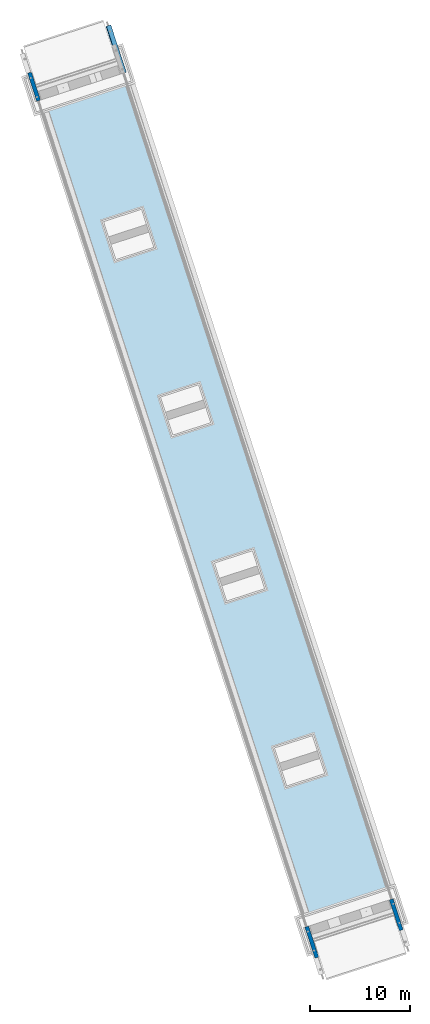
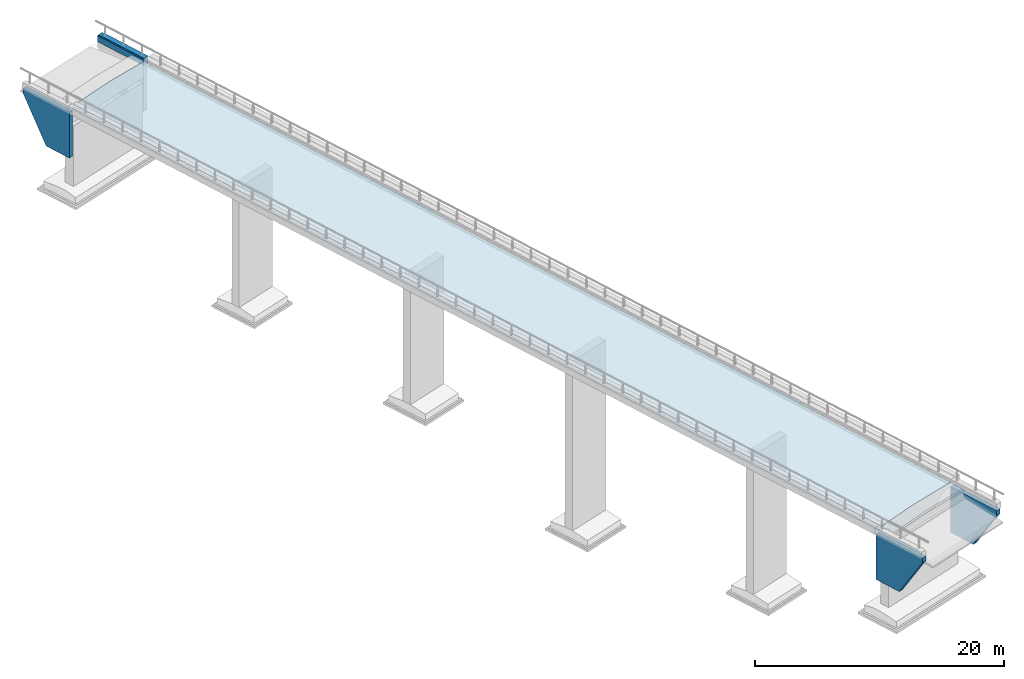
# Not in any storey, part 8 of 10: 3 walls, 1 beam, 1 slab.
"""IFC4X3_ADD2 model written with IfcOpenShell, lengths in metres."""

from ifc_helpers import new_model, entity, si_unit, converted_unit, derived_unit, direction, frame, origin, origin_2d, place, context, subcontext, project, library, spatial, polygons, element, save


model = new_model("IFC4X3_ADD2")

# Units and contexts
model_context = context("Model", 3, precision=1e-05, world=origin(), true_north=direction((-0.011993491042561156, 0.9999280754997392)))
plan_context = context("Plan", 2, precision=1e-05, world=origin_2d())
body_context = subcontext(model_context, "Body", "Model", "MODEL_VIEW")
ifc_project = project(units=[si_unit("LENGTHUNIT", "METRE"), si_unit("AREAUNIT", "SQUARE_METRE"), si_unit("VOLUMEUNIT", "CUBIC_METRE"), si_unit("MASSUNIT", "GRAM", prefix="KILO"), converted_unit("TIMEUNIT", "year", entity("IfcTimeMeasure", 31557600.0), si_unit("TIMEUNIT", "SECOND"), dimensions=[0, 0, 1, 0, 0, 0, 0]), si_unit("PLANEANGLEUNIT", "RADIAN"), si_unit("THERMODYNAMICTEMPERATUREUNIT", "DEGREE_CELSIUS"), si_unit("FORCEUNIT", "NEWTON", prefix="KILO"), si_unit("PRESSUREUNIT", "PASCAL", prefix="MEGA"), si_unit("SOLIDANGLEUNIT", "STERADIAN"), derived_unit("MASSDENSITYUNIT", [(si_unit("MASSUNIT", "GRAM", prefix="KILO"), 1), (si_unit("VOLUMEUNIT", "CUBIC_METRE"), -1)]), derived_unit("MODULUSOFELASTICITYUNIT", [(si_unit("PRESSUREUNIT", "PASCAL", prefix="MEGA"), 1)]), derived_unit("THERMALEXPANSIONCOEFFICIENTUNIT", [(si_unit("THERMODYNAMICTEMPERATUREUNIT", "DEGREE_CELSIUS"), -1)])], contexts=[model_context, plan_context])
project_library = library(declared=ifc_project)

# Site, bridge, bridge parts
site_placement = place(None, origin())
site = spatial("IfcSite", under=ifc_project, at=site_placement, Name="Site BR-01", CompositionType="ELEMENT")
bridge_placement = place(site_placement, origin())
bridge = spatial("IfcBridge", under=site, at=bridge_placement, Name="BR-01", CompositionType="ELEMENT", PredefinedType="USERDEFINED")
bridge_part_1_placement = place(bridge_placement, origin())
bridge_part_1 = spatial("IfcBridgePart", under=bridge, at=bridge_part_1_placement, Name="Substructure", CompositionType="ELEMENT", PredefinedType="SUBSTRUCTURE", UsageType="VERTICAL")
bridge_part_2_placement = place(bridge_part_1_placement, frame((0.0, 0.0, 55.75)))
bridge_part_2 = spatial("IfcBridgePart", under=bridge_part_1, at=bridge_part_2_placement, Name="A1", CompositionType="ELEMENT", PredefinedType="ABUTMENT", UsageType="VERTICAL")

# Beam
beam_placement = place(bridge_part_2_placement, frame((18.344428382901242, 116.89430918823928, 8.487236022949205), z_axis=(0.0, 0.0, 1.0), x_axis=(0.3088039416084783, -0.951125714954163, 0.0)))
element("IfcBeam", 1, at=beam_placement, inside=bridge_part_2, Name="Wing wall edge beam A1 left", PredefinedType="EDGEBEAM", context=body_context, shape_type="Tessellation", body=[
    polygons([(-2.49998, 0.13001, 0.03075), (-2.49997, 0.27001, 0.02218), (-2.19998, 0.27001, 0.02085), (-2.19998, 0.13001, 0.02943), (-2.49997, 0.27001, 0.64218), (-2.19998, 0.27001, 0.72085), (-2.49998, -0.19999, 0.62218), (-2.19998, -0.2, 0.70085), (-2.49998, -0.26999, 0.55219), (-2.19998, -0.26999, 0.63085), (-2.34998, -0.26999, 0.47457), (-2.49998, -0.26999, 0.45218), (-2.42498, -0.26999, 0.33114), (-2.42498, -0.26999, 0.47161), (-2.42498, -0.26999, 0.18078), (-2.49998, -0.26999, 0.03075), (-2.27498, -0.26999, 0.47753), (-2.27498, -0.26999, 0.33047), (-2.19998, -0.26999, 0.45085), (-2.27498, -0.26999, 0.18011), (-2.19998, -0.26999, 0.02943), (-2.34998, -0.26999, 0.18044), (-2.34998, -0.26999, 0.3308), (0.1725, 0.165, 0.01675), (2.49997, 0.12999, 0.00858), (-1.01499, 0.165, 0.02203), (-1.01499, 0.2, 0.01988), (-1.01499, 0.235, 0.01774), (1.32499, 0.165, 0.01164), (1.32499, 0.2, 0.0095), (2.49998, 0.26999, 0.0), (1.32499, 0.235, 0.00735), (0.1725, 0.235, 0.01247), (0.1725, 0.2, 0.01461), (0.1725, 0.27, 0.18533), (-1.01499, 0.27, 0.1906), (-1.01499, 0.27, 0.36559), (-1.01499, 0.27, 0.5406), (1.32499, 0.27, 0.18021), (1.32499, 0.27, 0.35522), (2.49998, 0.26999, 0.7), (1.32499, 0.27, 0.53021), (0.1725, 0.27, 0.53532), (0.1725, 0.27, 0.36033), (0.1725, 0.1525, 0.70533), (-1.01499, 0.1525, 0.71059), (-1.01499, 0.035, 0.7056), (-1.01499, -0.0825, 0.70059), (1.32499, 0.1525, 0.70022), (1.32498, 0.035, 0.69521), (2.49997, -0.20001, 0.68), (1.32499, -0.0825, 0.69022), (0.1725, -0.0825, 0.69533), (0.1725, 0.035, 0.70033), (0.1725, -0.2175, 0.67283), (-1.01499, -0.2175, 0.67809), (-1.01499, -0.235, 0.6606), (-1.01499, -0.2525, 0.6431), (1.32498, -0.2175, 0.66772), (1.32499, -0.235, 0.65022), (2.49998, -0.27001, 0.61), (1.32499, -0.2525, 0.63271), (0.1725, -0.2525, 0.63783), (0.17249, -0.235, 0.65533), (0.1725, -0.27, 0.46997), (-1.01499, -0.27, 0.32488), (-1.01499, -0.27, 0.47523), (-1.01499, -0.27, 0.17452), (1.32498, -0.27, 0.46486), (1.32498, -0.27, 0.3145), (2.49998, -0.27001, 0.43), (1.32498, -0.27, 0.16415), (2.49998, -0.27001, 0.00858), (0.1725, -0.27, 0.16926), (0.1725, -0.27, 0.31961), (0.1725, -0.17, 0.0189), (-1.01499, -0.17, 0.02417), (-1.01499, -0.07, 0.02417), (-1.01499, 0.03, 0.02417), (1.32499, -0.17, 0.01379), (1.32498, -0.07, 0.01379), (1.32499, 0.03, 0.01379), (0.1725, 0.03, 0.0189), (0.1725, -0.07, 0.0189)], [[[1, 2, 3, 4]], [[2, 5, 6, 3]], [[5, 7, 8, 6]], [[7, 9, 10, 8]], [[9, 11, 10]], [[12, 13, 14]], [[9, 12, 14]], [[14, 11, 9]], [[15, 12, 16]], [[15, 13, 12]], [[10, 11, 17]], [[17, 18, 19]], [[19, 10, 17]], [[18, 20, 21, 19]], [[22, 15, 16, 21]], [[22, 21, 20]], [[13, 23, 11, 14]], [[15, 22, 23, 13]], [[23, 18, 17, 11]], [[22, 20, 18, 23]], [[4, 24, 25]], [[26, 4, 27]], [[26, 24, 4]], [[3, 27, 4]], [[3, 28, 27]], [[29, 25, 24]], [[25, 30, 31]], [[30, 25, 29]], [[32, 31, 30]], [[33, 28, 3, 31]], [[33, 31, 32]], [[27, 34, 24, 26]], [[28, 33, 34, 27]], [[34, 30, 29, 24]], [[33, 32, 30, 34]], [[3, 35, 31]], [[36, 3, 37]], [[36, 35, 3]], [[6, 37, 3]], [[6, 38, 37]], [[39, 31, 35]], [[31, 40, 41]], [[40, 31, 39]], [[42, 41, 40]], [[43, 38, 6, 41]], [[43, 41, 42]], [[37, 44, 35, 36]], [[38, 43, 44, 37]], [[44, 40, 39, 35]], [[43, 42, 40, 44]], [[6, 45, 41]], [[46, 6, 47]], [[46, 45, 6]], [[8, 47, 6]], [[8, 48, 47]], [[49, 41, 45]], [[41, 50, 51]], [[50, 41, 49]], [[52, 51, 50]], [[53, 48, 8, 51]], [[53, 51, 52]], [[47, 54, 45, 46]], [[48, 53, 54, 47]], [[54, 50, 49, 45]], [[53, 52, 50, 54]], [[8, 55, 51]], [[56, 8, 57]], [[56, 55, 8]], [[10, 57, 8]], [[10, 58, 57]], [[59, 51, 55]], [[51, 60, 61]], [[60, 51, 59]], [[62, 61, 60]], [[63, 58, 10, 61]], [[63, 61, 62]], [[57, 64, 55, 56]], [[58, 63, 64, 57]], [[64, 60, 59, 55]], [[63, 62, 60, 64]], [[10, 65, 61]], [[19, 66, 67]], [[10, 19, 67]], [[67, 65, 10]], [[68, 19, 21]], [[68, 66, 19]], [[61, 65, 69]], [[69, 70, 71]], [[71, 61, 69]], [[70, 72, 73, 71]], [[74, 68, 21, 73]], [[74, 73, 72]], [[66, 75, 65, 67]], [[68, 74, 75, 66]], [[75, 70, 69, 65]], [[74, 72, 70, 75]], [[16, 1, 4, 21]], [[41, 71, 25]], [[51, 71, 41]], [[25, 31, 41]], [[61, 71, 51]], [[71, 73, 25]], [[7, 1, 12]], [[2, 1, 5]], [[7, 5, 1]], [[16, 12, 1]], [[12, 9, 7]], [[21, 76, 73]], [[77, 21, 78]], [[77, 76, 21]], [[4, 78, 21]], [[4, 79, 78]], [[80, 73, 76]], [[73, 81, 25]], [[81, 73, 80]], [[82, 25, 81]], [[83, 79, 4, 25]], [[83, 25, 82]], [[78, 84, 76, 77]], [[79, 83, 84, 78]], [[84, 81, 80, 76]], [[83, 82, 81, 84]]], closed=True),
])

# Bridge parts
bridge_part_3_placement = place(bridge_placement, origin())
bridge_part_3 = spatial("IfcBridgePart", under=bridge, at=bridge_part_3_placement, Name="Superstructure", CompositionType="ELEMENT", PredefinedType="SUPERSTRUCTURE", UsageType="LONGITUDINAL")
bridge_part_4_placement = place(bridge_part_3_placement, frame((0.0, 0.0, 62.729)))
bridge_part_4 = spatial("IfcBridgePart", under=bridge_part_3, at=bridge_part_4_placement, Name="Deck", CompositionType="ELEMENT", PredefinedType="DECK", UsageType="LONGITUDINAL")

# Slab
slab_placement = place(bridge_part_4_placement, frame((28.26563398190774, 71.69917425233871, 2.6794433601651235e-05), z_axis=(0.0, 0.0, 1.0), x_axis=(0.3088039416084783, -0.951125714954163, 0.0)))
element("IfcSlab", 2, at=slab_placement, inside=bridge_part_4, Name="Bridge deck slab", ObjectType="BRIDGEDECK", PredefinedType="USERDEFINED", context=body_context, shape_type="Tessellation", body=[
    polygons([(-21.44402, -1.14994, 0.32179), (0.0, -1.14999, 0.21595), (-43.55, -2.29987, 0.44575), (0.0, 0.0, 0.20835), (-21.44402, 6e-05, 0.31063), (-21.44402, 1.15006, 0.29947), (22.10598, -5e-05, 0.10293), (1e-05, 1.15, 0.20077), (22.10598, -1.15005, 0.10683), (-21.44401, 3.22505, 1.88158), (1e-05, 3.22499, 1.78302), (-43.54999, 4.30012, 1.93636), (1e-05, 2.14999, 1.82285), (-21.44401, 2.15005, 1.92504), (1e-05, 1.075, 1.86269), (22.10599, 2.14994, 1.71751), (22.10598, 1.07494, 1.75362), (22.10599, 3.22493, 1.6814), (-43.54999, 2.30012, 0.38636), (43.55001, 2.29989, 0.0), (22.10598, 1.14995, 0.09903), (43.55, -2.30012, 0.00132), (-1e-05, -2.54999, 0.47353), (-21.44403, -2.54993, 0.58295), (-21.44402, -2.79993, 0.83295), (-43.55001, -3.29987, 1.44575), (-21.44402, -3.04993, 1.08295), (22.10597, -2.55005, 0.36074), (22.10598, -2.80006, 0.61074), (43.54999, -3.30012, 1.00132), (22.10597, -3.05006, 0.86074), (-1e-05, -3.04999, 0.97353), (0.0, -2.79999, 0.72353), (-1e-05, -3.54999, 1.27354), (-21.44403, -3.54993, 1.38295), (-21.44403, -3.79993, 1.43295), (-43.55001, -4.29987, 1.64574), (-21.44403, -4.04993, 1.48295), (22.10597, -3.55006, 1.16074), (22.10597, -3.80006, 1.21074), (43.54999, -4.30012, 1.20132), (22.10597, -4.05006, 1.26074), (-1e-05, -4.04999, 1.37354), (-1e-05, -3.79999, 1.32353), (-1e-05, -4.29999, 1.51103), (-21.44403, -4.29993, 1.62045), (-21.44403, -4.29993, 1.70795), (-43.55001, -4.29987, 1.99574), (-21.44403, -4.29993, 1.79545), (22.10597, -4.30006, 1.39824), (22.10597, -4.30006, 1.48574), (43.54999, -4.30012, 1.55132), (22.10597, -4.30006, 1.57323), (-1e-05, -4.29999, 1.68604), (-1e-05, -4.29999, 1.59853), (-1e-05, -3.22499, 1.80579), (-21.44403, -3.22494, 1.9152), (-21.44403, -2.14994, 1.94745), (-43.55001, -4.24987, 1.99725), (-43.55, 0.00011, 2.12475), (-21.44402, -1.07494, 1.9797), (22.10597, -3.22506, 1.69299), (43.54999, -4.25012, 1.55282), (43.55, -0.00011, 1.68032), (22.10598, -2.15006, 1.72523), (22.10598, -1.07506, 1.75748), (0.0, -1.075, 1.87029), (0.0, -2.15, 1.83804), (-43.54998, 4.25012, 1.93821), (-21.44401, 1.07505, 1.9685), (43.55001, 4.29989, 1.55), (43.55001, 4.24989, 1.55185), (1e-05, 4.3, 1.65568), (-21.44401, 4.30006, 1.7508), (-21.44401, 4.30006, 1.6633), (-43.54999, 4.30012, 1.58636), (-21.44401, 4.30006, 1.5758), (22.10599, 4.29995, 1.55762), (22.10599, 4.29995, 1.47012), (43.55001, 4.29989, 1.2), (22.10599, 4.29995, 1.38262), (1e-05, 4.3, 1.48068), (1e-05, 4.3, 1.56818), (1e-05, 4.05, 1.34318), (-21.44401, 4.05006, 1.4383), (-21.44401, 3.80006, 1.3883), (-43.54999, 3.30012, 1.38636), (-21.44401, 3.55006, 1.3383), (22.10599, 4.04995, 1.24512), (22.10599, 3.79995, 1.19512), (43.55001, 3.29989, 1.0), (22.10599, 3.54995, 1.14512), (1e-05, 3.55, 1.24318), (1e-05, 3.8, 1.29318), (1e-05, 3.175, 1.06818), (-21.44401, 3.17506, 1.1633), (-21.44401, 3.05006, 1.0383), (-43.54999, 2.80012, 0.88636), (-21.44401, 2.92506, 0.9133), (22.10599, 3.17495, 0.97012), (22.10599, 3.04995, 0.84512), (43.55001, 2.79989, 0.5), (22.10599, 2.92495, 0.72012), (1e-05, 2.925, 0.81818), (1e-05, 3.05, 0.94318), (1e-05, 2.675, 0.56818), (-21.44401, 2.67506, 0.6633), (-21.44401, 2.55006, 0.5383), (-21.44401, 2.42506, 0.4133), (22.10599, 2.67495, 0.47012), (22.10599, 2.54995, 0.34512), (22.10599, 2.42495, 0.22012), (1e-05, 2.425, 0.31818), (1e-05, 2.55, 0.44318)], [[[1, 2, 3]], [[4, 5, 6]], [[2, 1, 5]], [[7, 4, 8]], [[9, 2, 4]], [[10, 11, 12]], [[13, 14, 15]], [[11, 10, 13]], [[16, 13, 17]], [[18, 11, 16]], [[8, 19, 20]], [[19, 6, 5]], [[8, 6, 19]], [[5, 3, 19]], [[1, 3, 5]], [[20, 21, 8]], [[7, 20, 22]], [[20, 7, 21]], [[22, 9, 7]], [[3, 2, 22]], [[22, 2, 9]], [[8, 4, 6]], [[4, 2, 5]], [[21, 7, 8]], [[7, 9, 4]], [[23, 3, 22]], [[3, 24, 25]], [[23, 24, 3]], [[25, 26, 3]], [[27, 26, 25]], [[22, 28, 23]], [[29, 22, 30]], [[22, 29, 28]], [[30, 31, 29]], [[26, 27, 32, 30]], [[30, 32, 31]], [[23, 33, 25, 24]], [[33, 32, 27, 25]], [[28, 29, 33, 23]], [[29, 31, 32, 33]], [[34, 26, 30]], [[26, 35, 36]], [[34, 35, 26]], [[36, 37, 26]], [[38, 37, 36]], [[30, 39, 34]], [[40, 30, 41]], [[30, 40, 39]], [[41, 42, 40]], [[37, 38, 43, 41]], [[41, 43, 42]], [[34, 44, 36, 35]], [[44, 43, 38, 36]], [[39, 40, 44, 34]], [[40, 42, 43, 44]], [[45, 37, 41]], [[37, 46, 47]], [[45, 46, 37]], [[47, 48, 37]], [[49, 48, 47]], [[41, 50, 45]], [[51, 41, 52]], [[41, 51, 50]], [[52, 53, 51]], [[48, 49, 54, 52]], [[52, 54, 53]], [[45, 55, 47, 46]], [[55, 54, 49, 47]], [[50, 51, 55, 45]], [[51, 53, 54, 55]], [[56, 48, 52]], [[57, 58, 59]], [[59, 48, 57]], [[56, 57, 48]], [[58, 60, 59]], [[61, 60, 58]], [[52, 62, 56]], [[63, 64, 65]], [[65, 62, 63]], [[52, 63, 62]], [[64, 66, 65]], [[60, 61, 67, 64]], [[64, 67, 66]], [[56, 68, 58, 57]], [[68, 67, 61, 58]], [[62, 65, 68, 56]], [[65, 66, 67, 68]], [[15, 60, 64]], [[14, 69, 60]], [[60, 70, 14]], [[70, 60, 15]], [[10, 69, 14]], [[10, 12, 69]], [[12, 11, 71]], [[64, 17, 15]], [[16, 64, 72]], [[64, 16, 17]], [[72, 18, 16]], [[18, 71, 11]], [[71, 18, 72]], [[15, 14, 70]], [[13, 10, 14]], [[17, 13, 15]], [[16, 11, 13]], [[73, 12, 71]], [[12, 74, 75]], [[73, 74, 12]], [[75, 76, 12]], [[77, 76, 75]], [[71, 78, 73]], [[79, 71, 80]], [[71, 79, 78]], [[80, 81, 79]], [[76, 77, 82, 80]], [[80, 82, 81]], [[73, 83, 75, 74]], [[83, 82, 77, 75]], [[78, 79, 83, 73]], [[79, 81, 82, 83]], [[84, 76, 80]], [[76, 85, 86]], [[84, 85, 76]], [[86, 87, 76]], [[88, 87, 86]], [[80, 89, 84]], [[90, 80, 91]], [[80, 90, 89]], [[91, 92, 90]], [[87, 88, 93, 91]], [[91, 93, 92]], [[84, 94, 86, 85]], [[94, 93, 88, 86]], [[89, 90, 94, 84]], [[90, 92, 93, 94]], [[95, 87, 91]], [[87, 96, 97]], [[95, 96, 87]], [[97, 98, 87]], [[99, 98, 97]], [[91, 100, 95]], [[101, 91, 102]], [[91, 101, 100]], [[102, 103, 101]], [[98, 99, 104, 102]], [[102, 104, 103]], [[95, 105, 97, 96]], [[105, 104, 99, 97]], [[100, 101, 105, 95]], [[101, 103, 104, 105]], [[91, 72, 64]], [[30, 102, 91]], [[102, 22, 20]], [[80, 72, 91]], [[71, 72, 80]], [[64, 30, 91]], [[22, 102, 30]], [[41, 30, 63]], [[63, 30, 64]], [[52, 41, 63]], [[69, 87, 60]], [[69, 76, 87]], [[76, 69, 12]], [[98, 19, 3]], [[87, 98, 26]], [[3, 26, 98]], [[59, 60, 26]], [[48, 59, 37]], [[26, 37, 59]], [[26, 60, 87]], [[106, 98, 102]], [[98, 107, 108]], [[106, 107, 98]], [[108, 19, 98]], [[109, 19, 108]], [[102, 110, 106]], [[111, 102, 20]], [[102, 111, 110]], [[20, 112, 111]], [[19, 109, 113, 20]], [[20, 113, 112]], [[106, 114, 108, 107]], [[114, 113, 109, 108]], [[110, 111, 114, 106]], [[111, 112, 113, 114]]], closed=True),
])

# Wall
wall_1_placement = place(bridge_part_2_placement, frame((9.812837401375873, 114.12435592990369, 4.0762748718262), z_axis=(0.0, 0.0, 1.0), x_axis=(0.3088039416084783, -0.951125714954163, 0.0)))
element("IfcWall", 3, at=wall_1_placement, inside=bridge_part_2, Name="Wing wall A1 right", ObjectType="WINGWALL", PredefinedType="USERDEFINED", context=body_context, shape_type="Tessellation", body=[
    polygons([(-1.24998, 0.2, 3.87806), (-2.49997, 0.20001, 4.50409), (0.0, 0.2, 4.49133), (-1.87497, 0.2, 4.13125), (-1.87497, 0.2, 3.76161), (-2.49997, 0.20001, 4.02551), (-1.87497, 0.2, 3.39196), (-1.24998, 0.2, 2.63877), (-0.62499, 0.2, 3.62487), (-0.62499, 0.2, 2.75523), (0.0, 0.2, 0.01276), (-0.62499, 0.2, 1.88559), (-1.24998, 0.2, 3.25842), (-1.24999, 0.1, 2.01913), (-1.87498, 0.10001, 3.02232), (-1.87497, 0.0, 3.02232), (-2.49997, -0.19999, 4.02551), (-1.87498, -0.09999, 3.02232), (-1.24999, -0.1, 2.01913), (-0.62499, 0.1, 1.01595), (-0.62499, 0.0, 1.01595), (0.0, -0.2, 0.01276), (-0.62499, -0.1, 1.01595), (-1.24998, 0.0, 2.01913), (-1.24998, -0.2, 2.63877), (-1.87497, -0.2, 3.39196), (-1.87497, -0.2, 3.76161), (-2.49997, -0.19999, 4.50409), (-1.87497, -0.2, 4.13125), (-1.24998, -0.2, 3.87806), (-0.62499, -0.2, 1.88559), (-0.62499, -0.2, 2.75523), (0.0, -0.2, 4.49133), (-0.62499, -0.2, 3.62487), (-1.24998, -0.2, 3.25842), (1.24998, 0.2, 3.36531), (2.49996, 0.2, 4.47857), (0.625, 0.2, 3.3685), (0.625, 0.2, 2.24885), (0.625, 0.2, 1.12921), (1.24998, 0.2, 1.12602), (1.87497, 0.2, 3.36212), (1.87497, 0.2, 2.24247), (2.49996, 0.2, 0.0), (1.87497, 0.2, 1.12283), (1.24998, 0.2, 2.24566), (1.24998, 0.1, 0.00638), (0.62499, 0.1, 0.00957), (0.62499, 0.0, 0.00957), (0.62499, -0.1, 0.00957), (1.24998, -0.1, 0.00638), (1.87498, 0.1, 0.00319), (1.87497, 0.0, 0.00319), (2.49997, -0.20001, 0.0), (1.87498, -0.1, 0.00319), (1.24998, 0.0, 0.00638), (1.24998, -0.2, 1.12602), (0.62499, -0.2, 1.12921), (0.62499, -0.2, 2.24885), (0.62499, -0.2, 3.3685), (1.24998, -0.2, 3.36531), (1.87497, -0.2, 1.12283), (1.87497, -0.2, 2.24247), (2.49997, -0.20001, 4.47857), (1.87497, -0.2, 3.36212), (1.24998, -0.2, 2.24566), (-1.24999, -0.1, 4.49771), (-1.87498, -0.09999, 4.5009), (-1.87497, 0.0, 4.5009), (-1.87498, 0.10001, 4.5009), (-1.24999, 0.1, 4.49771), (-0.62499, -0.1, 4.49452), (-0.62499, 0.0, 4.49452), (-0.62499, 0.1, 4.49452), (-1.24998, 0.0, 4.49771), (1.24998, -0.1, 4.48495), (0.62499, -0.1, 4.48814), (0.62499, 0.0, 4.48814), (0.62499, 0.1, 4.48814), (1.24998, 0.1, 4.48495), (1.87498, -0.1, 4.48176), (1.87497, 0.0, 4.48176), (1.87498, 0.1, 4.48176), (1.24998, 0.0, 4.48495)], [[[1, 2, 3]], [[1, 4, 2]], [[2, 4, 5, 6]], [[6, 7, 8]], [[7, 6, 5]], [[3, 9, 1]], [[10, 3, 11]], [[3, 10, 9]], [[11, 12, 10]], [[8, 11, 6]], [[11, 8, 12]], [[1, 13, 5, 4]], [[13, 8, 7, 5]], [[9, 10, 13, 1]], [[10, 12, 8, 13]], [[14, 6, 11]], [[6, 15, 16]], [[14, 15, 6]], [[16, 17, 6]], [[17, 18, 19]], [[18, 17, 16]], [[11, 20, 14]], [[21, 11, 22]], [[11, 21, 20]], [[22, 23, 21]], [[19, 22, 17]], [[22, 19, 23]], [[14, 24, 16, 15]], [[24, 19, 18, 16]], [[20, 21, 24, 14]], [[21, 23, 19, 24]], [[25, 17, 22]], [[17, 26, 27]], [[25, 26, 17]], [[27, 28, 17]], [[28, 29, 30]], [[29, 28, 27]], [[22, 31, 25]], [[32, 22, 33]], [[22, 32, 31]], [[33, 34, 32]], [[30, 33, 28]], [[33, 30, 34]], [[25, 35, 27, 26]], [[35, 30, 29, 27]], [[31, 32, 35, 25]], [[32, 34, 30, 35]], [[36, 3, 37]], [[3, 38, 39]], [[36, 38, 3]], [[39, 11, 3]], [[11, 40, 41]], [[40, 11, 39]], [[37, 42, 36]], [[43, 37, 44]], [[37, 43, 42]], [[44, 45, 43]], [[41, 44, 11]], [[44, 41, 45]], [[36, 46, 39, 38]], [[46, 41, 40, 39]], [[42, 43, 46, 36]], [[43, 45, 41, 46]], [[47, 11, 44]], [[11, 48, 49]], [[47, 48, 11]], [[49, 22, 11]], [[22, 50, 51]], [[50, 22, 49]], [[44, 52, 47]], [[53, 44, 54]], [[44, 53, 52]], [[54, 55, 53]], [[51, 54, 22]], [[54, 51, 55]], [[47, 56, 49, 48]], [[56, 51, 50, 49]], [[52, 53, 56, 47]], [[53, 55, 51, 56]], [[57, 22, 54]], [[22, 58, 59]], [[57, 58, 22]], [[59, 33, 22]], [[33, 60, 61]], [[60, 33, 59]], [[54, 62, 57]], [[63, 54, 64]], [[54, 63, 62]], [[64, 65, 63]], [[61, 64, 33]], [[64, 61, 65]], [[57, 66, 59, 58]], [[66, 61, 60, 59]], [[62, 63, 66, 57]], [[63, 65, 61, 66]], [[67, 28, 33]], [[28, 68, 69]], [[67, 68, 28]], [[69, 2, 28]], [[2, 70, 71]], [[70, 2, 69]], [[33, 72, 67]], [[73, 33, 3]], [[33, 73, 72]], [[3, 74, 73]], [[71, 3, 2]], [[3, 71, 74]], [[67, 75, 69, 68]], [[75, 71, 70, 69]], [[72, 73, 75, 67]], [[73, 74, 71, 75]], [[44, 37, 64, 54]], [[2, 6, 17, 28]], [[76, 33, 64]], [[33, 77, 78]], [[76, 77, 33]], [[78, 3, 33]], [[3, 79, 80]], [[79, 3, 78]], [[64, 81, 76]], [[82, 64, 37]], [[64, 82, 81]], [[37, 83, 82]], [[80, 37, 3]], [[37, 80, 83]], [[76, 84, 78, 77]], [[84, 80, 79, 78]], [[81, 82, 84, 76]], [[82, 83, 80, 84]]], closed=True),
])

# Bridge part
bridge_part_5_placement = place(bridge_part_1_placement, frame((0.0, 0.0, 55.75)))
bridge_part_5 = spatial("IfcBridgePart", under=bridge_part_1, at=bridge_part_5_placement, Name="A2", CompositionType="ELEMENT", PredefinedType="ABUTMENT", UsageType="VERTICAL")

# Walls
wall_2_placement = place(bridge_part_5_placement, frame((46.71845048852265, 29.27398759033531, 3.619789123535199), z_axis=(0.0, 0.0, 1.0), x_axis=(0.3088039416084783, -0.951125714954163, 0.0)))
element("IfcWall", 4, at=wall_2_placement, inside=bridge_part_5, Name="Wing wall A2 left", ObjectType="WINGWALL", PredefinedType="USERDEFINED", context=body_context, shape_type="Tessellation", body=[
    polygons([(-2.49998, -0.19999, 4.48966), (-1.24999, -0.2, 3.36448), (0.0, -0.2, 4.47857), (-1.87498, -0.2, 3.36724), (-1.87498, -0.2, 2.2476), (-2.49998, -0.19999, 0.01109), (-1.87498, -0.2, 1.12796), (-1.24999, -0.2, 1.12519), (-0.62499, -0.2, 3.3617), (-0.62499, -0.2, 2.24206), (0.0, -0.2, 0.0), (-0.62499, -0.2, 1.12242), (-1.24999, -0.2, 2.24483), (-1.24999, -0.1, 0.00555), (-1.87498, -0.09999, 0.00832), (-1.87498, 0.0, 0.00832), (-2.49997, 0.20001, 0.01109), (-1.87498, 0.1, 0.00832), (-1.24999, 0.1, 0.00555), (-0.62499, -0.1, 0.00277), (-0.62499, 0.0, 0.00277), (0.0, 0.2, 0.0), (-0.62499, 0.1, 0.00277), (-1.24999, 0.0, 0.00555), (-1.24999, 0.2, 1.12519), (-1.87498, 0.2, 1.12796), (-1.87498, 0.2, 2.2476), (-2.49997, 0.20001, 4.48966), (-1.87498, 0.2, 3.36724), (-1.24999, 0.2, 3.36448), (-0.62499, 0.2, 1.12242), (-0.62499, 0.2, 2.24206), (0.0, 0.2, 4.47857), (-0.62499, 0.2, 3.3617), (-1.24999, 0.2, 2.24483), (1.24999, -0.2, 3.85339), (2.49998, -0.20001, 4.46748), (0.62499, -0.2, 3.60616), (0.62499, -0.2, 2.73652), (0.62499, -0.2, 1.86687), (1.87498, -0.2, 4.10061), (1.87498, -0.2, 3.73097), (2.49998, -0.20001, 3.98891), (1.87498, -0.2, 3.36133), (1.24999, -0.2, 2.6141), (1.24999, -0.2, 3.23374), (1.24999, -0.1, 1.99446), (0.62499, -0.1, 0.99723), (0.62499, 0.0, 0.99723), (0.62499, 0.1, 0.99723), (1.87498, -0.10001, 2.99168), (1.87498, -1e-05, 2.99168), (2.49998, 0.19999, 3.98891), (1.87498, 0.09999, 2.99168), (1.24999, 0.1, 1.99446), (1.24999, 0.0, 1.99446), (1.24999, 0.2, 2.6141), (0.62499, 0.2, 1.86687), (0.62499, 0.2, 2.73652), (0.62499, 0.2, 3.60616), (1.87498, 0.2, 3.36133), (1.87498, 0.2, 3.73097), (2.49998, 0.19999, 4.46748), (1.87498, 0.2, 4.10061), (1.24999, 0.2, 3.85339), (1.24999, 0.2, 3.23374), (-1.24999, 0.1, 4.48412), (-1.87498, 0.1, 4.48689), (-1.87498, 0.0, 4.48689), (-1.87498, -0.09999, 4.48689), (-1.24999, -0.1, 4.48412), (-0.62499, 0.1, 4.48135), (-0.62499, 0.0, 4.48135), (-0.62499, -0.1, 4.48135), (-1.24999, 0.0, 4.48412), (1.24999, 0.1, 4.47303), (0.62499, 0.1, 4.4758), (0.62499, 0.0, 4.4758), (0.62499, -0.1, 4.4758), (1.87498, 0.09999, 4.47026), (1.87498, -1e-05, 4.47026), (1.87498, -0.10001, 4.47026), (1.24999, -0.1, 4.47303), (1.24999, 0.0, 4.47303)], [[[1, 2, 3]], [[4, 1, 5]], [[4, 2, 1]], [[6, 5, 1]], [[7, 6, 8]], [[6, 7, 5]], [[9, 3, 2]], [[3, 10, 11]], [[10, 3, 9]], [[12, 11, 10]], [[11, 8, 6]], [[8, 11, 12]], [[5, 13, 2, 4]], [[7, 8, 13, 5]], [[13, 10, 9, 2]], [[8, 12, 10, 13]], [[6, 14, 11]], [[15, 6, 16]], [[15, 14, 6]], [[17, 16, 6]], [[18, 17, 19]], [[17, 18, 16]], [[20, 11, 14]], [[11, 21, 22]], [[21, 11, 20]], [[23, 22, 21]], [[22, 19, 17]], [[19, 22, 23]], [[16, 24, 14, 15]], [[18, 19, 24, 16]], [[24, 21, 20, 14]], [[19, 23, 21, 24]], [[17, 25, 22]], [[26, 17, 27]], [[26, 25, 17]], [[28, 27, 17]], [[29, 28, 30]], [[28, 29, 27]], [[31, 22, 25]], [[22, 32, 33]], [[32, 22, 31]], [[34, 33, 32]], [[33, 30, 28]], [[30, 33, 34]], [[27, 35, 25, 26]], [[29, 30, 35, 27]], [[35, 32, 31, 25]], [[30, 34, 32, 35]], [[3, 36, 37]], [[38, 3, 39]], [[38, 36, 3]], [[11, 39, 3]], [[11, 40, 39]], [[41, 37, 36]], [[37, 42, 43]], [[42, 37, 41]], [[44, 43, 42]], [[45, 40, 11, 43]], [[45, 43, 44]], [[39, 46, 36, 38]], [[40, 45, 46, 39]], [[46, 42, 41, 36]], [[45, 44, 42, 46]], [[11, 47, 43]], [[48, 47, 11]], [[49, 48, 11, 22]], [[22, 50, 49]], [[51, 43, 47]], [[43, 52, 53]], [[52, 43, 51]], [[54, 53, 52]], [[55, 50, 22, 53]], [[55, 53, 54]], [[49, 56, 47, 48]], [[50, 55, 56, 49]], [[56, 52, 51, 47]], [[55, 54, 52, 56]], [[22, 57, 53]], [[58, 22, 59]], [[58, 57, 22]], [[33, 59, 22]], [[33, 60, 59]], [[61, 53, 57]], [[53, 62, 63]], [[62, 53, 61]], [[64, 63, 62]], [[65, 60, 33, 63]], [[65, 63, 64]], [[59, 66, 57, 58]], [[60, 65, 66, 59]], [[66, 62, 61, 57]], [[65, 64, 62, 66]], [[28, 67, 33]], [[68, 28, 69]], [[68, 67, 28]], [[1, 69, 28]], [[70, 1, 71]], [[1, 70, 69]], [[72, 33, 67]], [[33, 73, 3]], [[73, 33, 72]], [[74, 3, 73]], [[3, 71, 1]], [[71, 3, 74]], [[69, 75, 67, 68]], [[70, 71, 75, 69]], [[75, 73, 72, 67]], [[71, 74, 73, 75]], [[43, 53, 63, 37]], [[1, 28, 17, 6]], [[33, 76, 63]], [[77, 76, 33]], [[78, 77, 33, 3]], [[3, 79, 78]], [[80, 63, 76]], [[63, 81, 37]], [[81, 63, 80]], [[82, 37, 81]], [[83, 79, 3, 37]], [[83, 37, 82]], [[78, 84, 76, 77]], [[79, 83, 84, 78]], [[84, 81, 80, 76]], [[83, 82, 81, 84]]], closed=True),
])
wall_3_placement = place(bridge_part_5_placement, frame((38.25341671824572, 26.525660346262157, 3.6190910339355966), z_axis=(0.0, 0.0, 1.0), x_axis=(0.3088039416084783, -0.951125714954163, 0.0)))
element("IfcWall", 5, at=wall_3_placement, inside=bridge_part_5, Name="Wing wall A2 right", ObjectType="WINGWALL", PredefinedType="USERDEFINED", context=body_context, shape_type="Tessellation", body=[
    polygons([(-1.24998, 0.2, 3.36531), (-2.49997, 0.20001, 4.49133), (0.0, 0.2, 4.47857), (-1.87498, 0.20001, 3.3685), (-1.87498, 0.20001, 2.24885), (-2.49997, 0.20001, 0.01276), (-1.87498, 0.20001, 1.12921), (-0.62499, 0.2, 3.36212), (-0.62499, 0.2, 2.24247), (0.0, 0.2, 0.0), (-0.62499, 0.2, 1.12283), (-1.24998, 0.2, 1.12602), (-1.24998, 0.2, 2.24566), (-1.24998, 0.1, 0.00638), (-1.87498, 0.10001, 0.00957), (-1.87498, 1e-05, 0.00957), (-2.49997, -0.19999, 0.01276), (-1.87498, -0.09999, 0.00957), (-0.62499, 0.1, 0.00319), (-0.62499, 0.0, 0.00319), (0.0, -0.2, 0.0), (-0.62499, -0.1, 0.00319), (-1.24998, -0.1, 0.00638), (-1.24998, 0.0, 0.00638), (-1.24998, -0.2, 1.12602), (-1.87498, -0.19999, 1.12921), (-1.87498, -0.19999, 2.24885), (-2.49997, -0.19999, 4.49133), (-1.87498, -0.19999, 3.3685), (-0.62499, -0.2, 1.12283), (-0.62499, -0.2, 2.24247), (0.0, -0.2, 4.47857), (-0.62499, -0.2, 3.36212), (-1.24998, -0.2, 3.36531), (-1.24998, -0.2, 2.24566), (1.24998, 0.2, 3.85255), (2.49997, 0.19999, 4.46581), (0.62499, 0.2, 3.60574), (0.62499, 0.2, 2.7361), (0.62499, 0.2, 1.86645), (1.87498, 0.19999, 4.09936), (1.87498, 0.19999, 3.72972), (2.49997, 0.19999, 3.98724), (1.87498, 0.19999, 3.36007), (1.24998, 0.2, 2.61326), (1.24998, 0.2, 3.23291), (1.24998, 0.1, 1.99362), (0.62499, 0.1, 0.99681), (0.62499, 0.0, 0.99681), (0.62499, -0.1, 0.99681), (1.87498, 0.09999, 2.99043), (1.87498, -1e-05, 2.99043), (2.49997, -0.20001, 3.98724), (1.87498, -0.10001, 2.99043), (1.24998, -0.1, 1.99362), (1.24998, 0.0, 1.99362), (1.24998, -0.2, 2.61326), (0.62499, -0.2, 1.86645), (0.62499, -0.2, 2.7361), (0.62499, -0.2, 3.60574), (1.87498, -0.20001, 3.36007), (1.87498, -0.20001, 3.72972), (2.49997, -0.20001, 4.46581), (1.87498, -0.20001, 4.09936), (1.24998, -0.2, 3.85255), (1.24998, -0.2, 3.23291), (-1.24998, -0.1, 4.48495), (-1.87498, -0.09999, 4.48814), (-1.87498, 1e-05, 4.48814), (-1.87498, 0.10001, 4.48814), (-0.62499, -0.1, 4.48176), (-0.62499, 0.0, 4.48176), (-0.62499, 0.1, 4.48176), (-1.24998, 0.1, 4.48495), (-1.24998, 0.0, 4.48495), (1.24998, -0.1, 4.47219), (0.62499, -0.1, 4.47538), (0.62499, 0.0, 4.47538), (0.62499, 0.1, 4.47538), (1.87498, -0.10001, 4.469), (1.87498, -1e-05, 4.469), (1.87498, 0.09999, 4.469), (1.24998, 0.1, 4.47219), (1.24998, 0.0, 4.47219)], [[[1, 2, 3]], [[2, 4, 5]], [[1, 4, 2]], [[5, 6, 2]], [[7, 6, 5]], [[3, 8, 1]], [[9, 3, 10]], [[3, 9, 8]], [[10, 11, 9]], [[6, 7, 12, 10]], [[10, 12, 11]], [[1, 13, 5, 4]], [[13, 12, 7, 5]], [[8, 9, 13, 1]], [[9, 11, 12, 13]], [[14, 6, 10]], [[6, 15, 16]], [[14, 15, 6]], [[16, 17, 6]], [[18, 17, 16]], [[10, 19, 14]], [[20, 10, 21]], [[10, 20, 19]], [[21, 22, 20]], [[17, 18, 23, 21]], [[21, 23, 22]], [[14, 24, 16, 15]], [[24, 23, 18, 16]], [[19, 20, 24, 14]], [[20, 22, 23, 24]], [[25, 17, 21]], [[17, 26, 27]], [[25, 26, 17]], [[27, 28, 17]], [[29, 28, 27]], [[21, 30, 25]], [[31, 21, 32]], [[21, 31, 30]], [[32, 33, 31]], [[28, 29, 34, 32]], [[32, 34, 33]], [[25, 35, 27, 26]], [[35, 34, 29, 27]], [[30, 31, 35, 25]], [[31, 33, 34, 35]], [[36, 3, 37]], [[36, 38, 3]], [[3, 38, 39, 10]], [[40, 10, 39]], [[37, 41, 36]], [[42, 37, 43]], [[37, 42, 41]], [[43, 44, 42]], [[10, 40, 45, 43]], [[43, 45, 44]], [[36, 46, 39, 38]], [[46, 45, 40, 39]], [[41, 42, 46, 36]], [[42, 44, 45, 46]], [[47, 10, 43]], [[10, 48, 49]], [[47, 48, 10]], [[49, 21, 10]], [[50, 21, 49]], [[43, 51, 47]], [[52, 43, 53]], [[43, 52, 51]], [[53, 54, 52]], [[21, 50, 55, 53]], [[53, 55, 54]], [[47, 56, 49, 48]], [[56, 55, 50, 49]], [[51, 52, 56, 47]], [[52, 54, 55, 56]], [[57, 21, 53]], [[21, 58, 59]], [[57, 58, 21]], [[59, 32, 21]], [[60, 32, 59]], [[53, 61, 57]], [[62, 53, 63]], [[53, 62, 61]], [[63, 64, 62]], [[32, 60, 65, 63]], [[63, 65, 64]], [[57, 66, 59, 58]], [[66, 65, 60, 59]], [[61, 62, 66, 57]], [[62, 64, 65, 66]], [[67, 28, 32]], [[28, 68, 69]], [[67, 68, 28]], [[69, 2, 28]], [[70, 2, 69]], [[32, 71, 67]], [[72, 32, 3]], [[32, 72, 71]], [[3, 73, 72]], [[2, 70, 74, 3]], [[3, 74, 73]], [[67, 75, 69, 68]], [[75, 74, 70, 69]], [[71, 72, 75, 67]], [[72, 73, 74, 75]], [[43, 37, 63, 53]], [[2, 6, 17, 28]], [[76, 32, 63]], [[32, 77, 78]], [[76, 77, 32]], [[78, 3, 32]], [[79, 3, 78]], [[63, 80, 76]], [[81, 63, 37]], [[63, 81, 80]], [[37, 82, 81]], [[3, 79, 83, 37]], [[37, 83, 82]], [[76, 84, 78, 77]], [[84, 83, 79, 78]], [[80, 81, 84, 76]], [[81, 82, 83, 84]]], closed=True),
])

save(model, "model.ifc")
